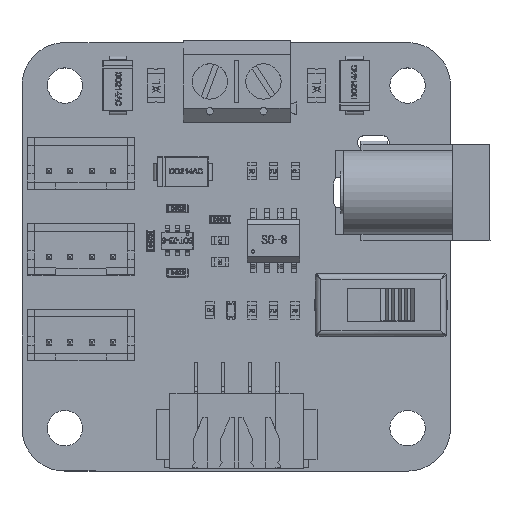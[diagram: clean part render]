
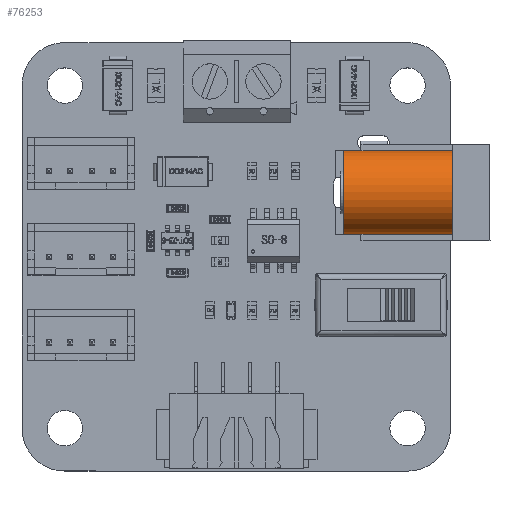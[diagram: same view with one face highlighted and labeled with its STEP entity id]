
A CAD part, top view. The second image highlights one B-rep face of the part: STEP entity #76253.
In plain terms, the highlighted cylindrical face has radius 3.9 mm (diameter 7.8 mm), a partial arc.
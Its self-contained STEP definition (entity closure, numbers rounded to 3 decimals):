
#76253 = ADVANCED_FACE('',(#76254),#76268,.T.);
#76254 = FACE_BOUND('',#76255,.T.);
#76255 = EDGE_LOOP('',(#76256,#76290,#76317,#76349,#76376,#76403));
#76256 = ORIENTED_EDGE('',*,*,#76257,.T.);
#76257 = EDGE_CURVE('',#76258,#76260,#76262,.T.);
#76258 = VERTEX_POINT('',#76259);
#76259 = CARTESIAN_POINT('',(3.9,0.,-3.5));
#76260 = VERTEX_POINT('',#76261);
#76261 = CARTESIAN_POINT('',(3.9,0.,-12.05));
#76262 = SURFACE_CURVE('',#76263,(#76267,#76278),.PCURVE_S1.);
#76263 = LINE('',#76264,#76265);
#76264 = CARTESIAN_POINT('',(3.9,0.,-3.5));
#76265 = VECTOR('',#76266,1.);
#76266 = DIRECTION('',(0.,0.,-1.));
#76267 = PCURVE('',#76268,#76273);
#76268 = CYLINDRICAL_SURFACE('',#76269,3.9);
#76269 = AXIS2_PLACEMENT_3D('',#76270,#76271,#76272);
#76270 = CARTESIAN_POINT('',(0.,0.,-3.5));
#76271 = DIRECTION('',(0.,0.,-1.));
#76272 = DIRECTION('',(-1.,0.,0.));
#76273 = DEFINITIONAL_REPRESENTATION('',(#76274),#76277);
#76274 = B_SPLINE_CURVE_WITH_KNOTS('',1,(#76275,#76276),.UNSPECIFIED.,
  .F.,.F.,(2,2),(0.,8.55),.PIECEWISE_BEZIER_KNOTS.);
#76275 = CARTESIAN_POINT('',(3.142,0.));
#76276 = CARTESIAN_POINT('',(3.142,8.55));
#76277 = ( GEOMETRIC_REPRESENTATION_CONTEXT(2) 
PARAMETRIC_REPRESENTATION_CONTEXT() REPRESENTATION_CONTEXT('2D SPACE',''
  ) );
#76278 = PCURVE('',#76279,#76284);
#76279 = PLANE('',#76280);
#76280 = AXIS2_PLACEMENT_3D('',#76281,#76282,#76283);
#76281 = CARTESIAN_POINT('',(3.9,0.,-3.5));
#76282 = DIRECTION('',(0.,-1.,0.));
#76283 = DIRECTION('',(1.,0.,0.));
#76284 = DEFINITIONAL_REPRESENTATION('',(#76285),#76289);
#76285 = LINE('',#76286,#76287);
#76286 = CARTESIAN_POINT('',(0.,0.));
#76287 = VECTOR('',#76288,1.);
#76288 = DIRECTION('',(0.,-1.));
#76289 = ( GEOMETRIC_REPRESENTATION_CONTEXT(2) 
PARAMETRIC_REPRESENTATION_CONTEXT() REPRESENTATION_CONTEXT('2D SPACE',''
  ) );
#76290 = ORIENTED_EDGE('',*,*,#76291,.T.);
#76291 = EDGE_CURVE('',#76260,#76292,#76294,.T.);
#76292 = VERTEX_POINT('',#76293);
#76293 = CARTESIAN_POINT('',(3.9,0.,-13.65));
#76294 = SURFACE_CURVE('',#76295,(#76299,#76305),.PCURVE_S1.);
#76295 = LINE('',#76296,#76297);
#76296 = CARTESIAN_POINT('',(3.9,0.,-12.05));
#76297 = VECTOR('',#76298,1.);
#76298 = DIRECTION('',(0.,0.,-1.));
#76299 = PCURVE('',#76268,#76300);
#76300 = DEFINITIONAL_REPRESENTATION('',(#76301),#76304);
#76301 = B_SPLINE_CURVE_WITH_KNOTS('',1,(#76302,#76303),.UNSPECIFIED.,
  .F.,.F.,(2,2),(0.,1.6),.PIECEWISE_BEZIER_KNOTS.);
#76302 = CARTESIAN_POINT('',(3.142,8.55));
#76303 = CARTESIAN_POINT('',(3.142,10.15));
#76304 = ( GEOMETRIC_REPRESENTATION_CONTEXT(2) 
PARAMETRIC_REPRESENTATION_CONTEXT() REPRESENTATION_CONTEXT('2D SPACE',''
  ) );
#76305 = PCURVE('',#76306,#76311);
#76306 = PLANE('',#76307);
#76307 = AXIS2_PLACEMENT_3D('',#76308,#76309,#76310);
#76308 = CARTESIAN_POINT('',(3.9,-6.,-12.05));
#76309 = DIRECTION('',(-1.,0.,0.));
#76310 = DIRECTION('',(0.,-1.,0.));
#76311 = DEFINITIONAL_REPRESENTATION('',(#76312),#76316);
#76312 = LINE('',#76313,#76314);
#76313 = CARTESIAN_POINT('',(-6.,0.));
#76314 = VECTOR('',#76315,1.);
#76315 = DIRECTION('',(0.,-1.));
#76316 = ( GEOMETRIC_REPRESENTATION_CONTEXT(2) 
PARAMETRIC_REPRESENTATION_CONTEXT() REPRESENTATION_CONTEXT('2D SPACE',''
  ) );
#76317 = ORIENTED_EDGE('',*,*,#76318,.T.);
#76318 = EDGE_CURVE('',#76292,#76319,#76321,.T.);
#76319 = VERTEX_POINT('',#76320);
#76320 = CARTESIAN_POINT('',(-3.9,0.,-13.65));
#76321 = SURFACE_CURVE('',#76322,(#76327,#76333),.PCURVE_S1.);
#76322 = CIRCLE('',#76323,3.9);
#76323 = AXIS2_PLACEMENT_3D('',#76324,#76325,#76326);
#76324 = CARTESIAN_POINT('',(0.,0.,-13.65));
#76325 = DIRECTION('',(0.,0.,1.));
#76326 = DIRECTION('',(-1.,0.,0.));
#76327 = PCURVE('',#76268,#76328);
#76328 = DEFINITIONAL_REPRESENTATION('',(#76329),#76332);
#76329 = B_SPLINE_CURVE_WITH_KNOTS('',1,(#76330,#76331),.UNSPECIFIED.,
  .F.,.F.,(2,2),(3.142,6.283),.PIECEWISE_BEZIER_KNOTS.);
#76330 = CARTESIAN_POINT('',(3.142,10.15));
#76331 = CARTESIAN_POINT('',(0.,10.15));
#76332 = ( GEOMETRIC_REPRESENTATION_CONTEXT(2) 
PARAMETRIC_REPRESENTATION_CONTEXT() REPRESENTATION_CONTEXT('2D SPACE',''
  ) );
#76333 = PCURVE('',#76334,#76339);
#76334 = PLANE('',#76335);
#76335 = AXIS2_PLACEMENT_3D('',#76336,#76337,#76338);
#76336 = CARTESIAN_POINT('',(0.,0.,-13.65));
#76337 = DIRECTION('',(0.,0.,-1.));
#76338 = DIRECTION('',(-1.,0.,0.));
#76339 = DEFINITIONAL_REPRESENTATION('',(#76340),#76348);
#76340 = ( BOUNDED_CURVE() B_SPLINE_CURVE(2,(#76341,#76342,#76343,#76344
    ,#76345,#76346,#76347),.UNSPECIFIED.,.F.,.F.) 
B_SPLINE_CURVE_WITH_KNOTS((1,2,2,2,2,1),(-2.094,0.,
    2.094,4.189,6.283,8.378),
.UNSPECIFIED.) CURVE() GEOMETRIC_REPRESENTATION_ITEM() 
RATIONAL_B_SPLINE_CURVE((1.,0.5,1.,0.5,1.,0.5,1.)) REPRESENTATION_ITEM(
  '') );
#76341 = CARTESIAN_POINT('',(3.9,0.));
#76342 = CARTESIAN_POINT('',(3.9,-6.755));
#76343 = CARTESIAN_POINT('',(-1.95,-3.377));
#76344 = CARTESIAN_POINT('',(-7.8,0.));
#76345 = CARTESIAN_POINT('',(-1.95,3.377));
#76346 = CARTESIAN_POINT('',(3.9,6.755));
#76347 = CARTESIAN_POINT('',(3.9,0.));
#76348 = ( GEOMETRIC_REPRESENTATION_CONTEXT(2) 
PARAMETRIC_REPRESENTATION_CONTEXT() REPRESENTATION_CONTEXT('2D SPACE',''
  ) );
#76349 = ORIENTED_EDGE('',*,*,#76350,.T.);
#76350 = EDGE_CURVE('',#76319,#76351,#76353,.T.);
#76351 = VERTEX_POINT('',#76352);
#76352 = CARTESIAN_POINT('',(-3.9,0.,-12.05));
#76353 = SURFACE_CURVE('',#76354,(#76358,#76364),.PCURVE_S1.);
#76354 = LINE('',#76355,#76356);
#76355 = CARTESIAN_POINT('',(-3.9,0.,-12.05));
#76356 = VECTOR('',#76357,1.);
#76357 = DIRECTION('',(0.,0.,1.));
#76358 = PCURVE('',#76268,#76359);
#76359 = DEFINITIONAL_REPRESENTATION('',(#76360),#76363);
#76360 = B_SPLINE_CURVE_WITH_KNOTS('',1,(#76361,#76362),.UNSPECIFIED.,
  .F.,.F.,(2,2),(-1.6,0.),.PIECEWISE_BEZIER_KNOTS.);
#76361 = CARTESIAN_POINT('',(0.,10.15));
#76362 = CARTESIAN_POINT('',(0.,8.55));
#76363 = ( GEOMETRIC_REPRESENTATION_CONTEXT(2) 
PARAMETRIC_REPRESENTATION_CONTEXT() REPRESENTATION_CONTEXT('2D SPACE',''
  ) );
#76364 = PCURVE('',#76365,#76370);
#76365 = PLANE('',#76366);
#76366 = AXIS2_PLACEMENT_3D('',#76367,#76368,#76369);
#76367 = CARTESIAN_POINT('',(-3.9,-6.,-12.05));
#76368 = DIRECTION('',(1.,0.,0.));
#76369 = DIRECTION('',(0.,0.,-1.));
#76370 = DEFINITIONAL_REPRESENTATION('',(#76371),#76375);
#76371 = LINE('',#76372,#76373);
#76372 = CARTESIAN_POINT('',(0.,6.));
#76373 = VECTOR('',#76374,1.);
#76374 = DIRECTION('',(-1.,0.));
#76375 = ( GEOMETRIC_REPRESENTATION_CONTEXT(2) 
PARAMETRIC_REPRESENTATION_CONTEXT() REPRESENTATION_CONTEXT('2D SPACE',''
  ) );
#76376 = ORIENTED_EDGE('',*,*,#76377,.T.);
#76377 = EDGE_CURVE('',#76351,#76378,#76380,.T.);
#76378 = VERTEX_POINT('',#76379);
#76379 = CARTESIAN_POINT('',(-3.9,0.,-3.5));
#76380 = SURFACE_CURVE('',#76381,(#76385,#76391),.PCURVE_S1.);
#76381 = LINE('',#76382,#76383);
#76382 = CARTESIAN_POINT('',(-3.9,0.,-3.5));
#76383 = VECTOR('',#76384,1.);
#76384 = DIRECTION('',(0.,0.,1.));
#76385 = PCURVE('',#76268,#76386);
#76386 = DEFINITIONAL_REPRESENTATION('',(#76387),#76390);
#76387 = B_SPLINE_CURVE_WITH_KNOTS('',1,(#76388,#76389),.UNSPECIFIED.,
  .F.,.F.,(2,2),(-8.55,0.),.PIECEWISE_BEZIER_KNOTS.);
#76388 = CARTESIAN_POINT('',(0.,8.55));
#76389 = CARTESIAN_POINT('',(0.,0.));
#76390 = ( GEOMETRIC_REPRESENTATION_CONTEXT(2) 
PARAMETRIC_REPRESENTATION_CONTEXT() REPRESENTATION_CONTEXT('2D SPACE',''
  ) );
#76391 = PCURVE('',#76392,#76397);
#76392 = PLANE('',#76393);
#76393 = AXIS2_PLACEMENT_3D('',#76394,#76395,#76396);
#76394 = CARTESIAN_POINT('',(-4.5,0.,-3.5));
#76395 = DIRECTION('',(0.,-1.,0.));
#76396 = DIRECTION('',(1.,0.,0.));
#76397 = DEFINITIONAL_REPRESENTATION('',(#76398),#76402);
#76398 = LINE('',#76399,#76400);
#76399 = CARTESIAN_POINT('',(0.6,0.));
#76400 = VECTOR('',#76401,1.);
#76401 = DIRECTION('',(0.,1.));
#76402 = ( GEOMETRIC_REPRESENTATION_CONTEXT(2) 
PARAMETRIC_REPRESENTATION_CONTEXT() REPRESENTATION_CONTEXT('2D SPACE',''
  ) );
#76403 = ORIENTED_EDGE('',*,*,#76404,.T.);
#76404 = EDGE_CURVE('',#76378,#76258,#76405,.T.);
#76405 = SURFACE_CURVE('',#76406,(#76411,#76417),.PCURVE_S1.);
#76406 = CIRCLE('',#76407,3.9);
#76407 = AXIS2_PLACEMENT_3D('',#76408,#76409,#76410);
#76408 = CARTESIAN_POINT('',(0.,0.,-3.5));
#76409 = DIRECTION('',(0.,0.,-1.));
#76410 = DIRECTION('',(-1.,0.,0.));
#76411 = PCURVE('',#76268,#76412);
#76412 = DEFINITIONAL_REPRESENTATION('',(#76413),#76416);
#76413 = B_SPLINE_CURVE_WITH_KNOTS('',1,(#76414,#76415),.UNSPECIFIED.,
  .F.,.F.,(2,2),(0.,3.142),.PIECEWISE_BEZIER_KNOTS.);
#76414 = CARTESIAN_POINT('',(0.,0.));
#76415 = CARTESIAN_POINT('',(3.142,0.));
#76416 = ( GEOMETRIC_REPRESENTATION_CONTEXT(2) 
PARAMETRIC_REPRESENTATION_CONTEXT() REPRESENTATION_CONTEXT('2D SPACE',''
  ) );
#76417 = PCURVE('',#76418,#76423);
#76418 = PLANE('',#76419);
#76419 = AXIS2_PLACEMENT_3D('',#76420,#76421,#76422);
#76420 = CARTESIAN_POINT('',(0.,0.,-3.5));
#76421 = DIRECTION('',(0.,0.,-1.));
#76422 = DIRECTION('',(-1.,0.,0.));
#76423 = DEFINITIONAL_REPRESENTATION('',(#76424),#76428);
#76424 = CIRCLE('',#76425,3.9);
#76425 = AXIS2_PLACEMENT_2D('',#76426,#76427);
#76426 = CARTESIAN_POINT('',(0.,0.));
#76427 = DIRECTION('',(1.,0.));
#76428 = ( GEOMETRIC_REPRESENTATION_CONTEXT(2) 
PARAMETRIC_REPRESENTATION_CONTEXT() REPRESENTATION_CONTEXT('2D SPACE',''
  ) );
